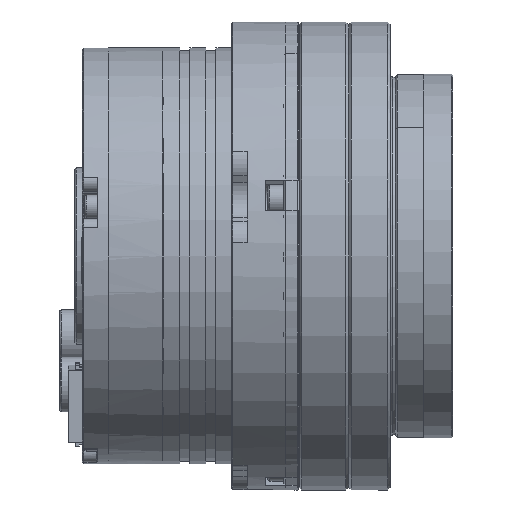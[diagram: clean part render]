
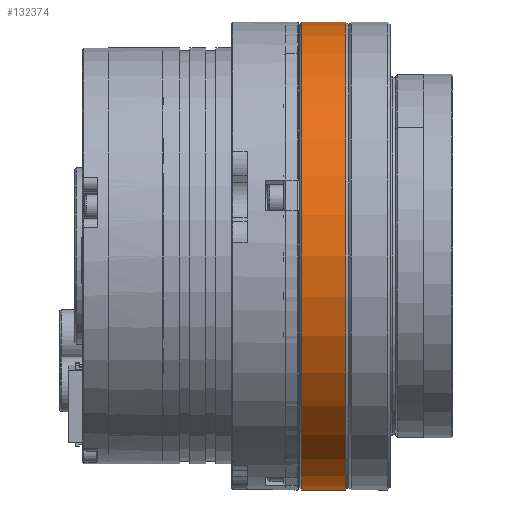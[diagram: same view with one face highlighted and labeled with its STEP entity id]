
A CAD part, front view. The second image highlights one B-rep face of the part: STEP entity #132374.
In plain terms, the highlighted cylindrical face has radius 45 mm (diameter 90 mm), a partial arc.
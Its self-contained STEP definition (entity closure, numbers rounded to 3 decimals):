
#131707=CARTESIAN_POINT('',(-15.,0.,-45.));
#131708=VERTEX_POINT('',#131707);
#131715=CARTESIAN_POINT('',(-15.,0.,45.));
#131716=VERTEX_POINT('',#131715);
#131717=CARTESIAN_POINT('',(-15.,0.,0.));
#131718=DIRECTION('',(0.,0.,-1.));
#131719=DIRECTION('',(-1.,0.,0.));
#131720=AXIS2_PLACEMENT_3D('',#131717,#131719,#131718);
#131721=CIRCLE('',#131720,45.);
#131722=EDGE_CURVE('',#131708,#131716,#131721,.T.);
#132343=CARTESIAN_POINT('',(-15.,0.,0.));
#132344=DIRECTION('',(0.,0.,-1.));
#132345=DIRECTION('',(1.,0.,0.));
#132346=AXIS2_PLACEMENT_3D('',#132343,#132345,#132344);
#132347=CYLINDRICAL_SURFACE('',#132346,45.);
#132348=ORIENTED_EDGE('',*,*,#131722,.F.);
#132349=CARTESIAN_POINT('',(-6.5,0.,-45.));
#132350=VERTEX_POINT('',#132349);
#132351=CARTESIAN_POINT('',(-15.,0.,-45.));
#132352=DIRECTION('',(1.,0.,0.));
#132353=VECTOR('',#132352,8.5);
#132354=LINE('',#132351,#132353);
#132355=EDGE_CURVE('',#131708,#132350,#132354,.T.);
#132356=ORIENTED_EDGE('',*,*,#132355,.T.);
#132357=CARTESIAN_POINT('',(-6.5,0.,45.));
#132358=VERTEX_POINT('',#132357);
#132359=CARTESIAN_POINT('',(-6.5,0.,0.));
#132360=DIRECTION('',(0.,0.,-1.));
#132361=DIRECTION('',(-1.,0.,0.));
#132362=AXIS2_PLACEMENT_3D('',#132359,#132361,#132360);
#132363=CIRCLE('',#132362,45.);
#132364=EDGE_CURVE('',#132350,#132358,#132363,.T.);
#132365=ORIENTED_EDGE('',*,*,#132364,.T.);
#132366=CARTESIAN_POINT('',(-6.5,0.,45.));
#132367=DIRECTION('',(-1.,0.,0.));
#132368=VECTOR('',#132367,8.5);
#132369=LINE('',#132366,#132368);
#132370=EDGE_CURVE('',#132358,#131716,#132369,.T.);
#132371=ORIENTED_EDGE('',*,*,#132370,.T.);
#132372=EDGE_LOOP('',(#132348,#132356,#132365,#132371));
#132373=FACE_OUTER_BOUND('',#132372,.T.);
#132374=ADVANCED_FACE('',(#132373),#132347,.T.);
